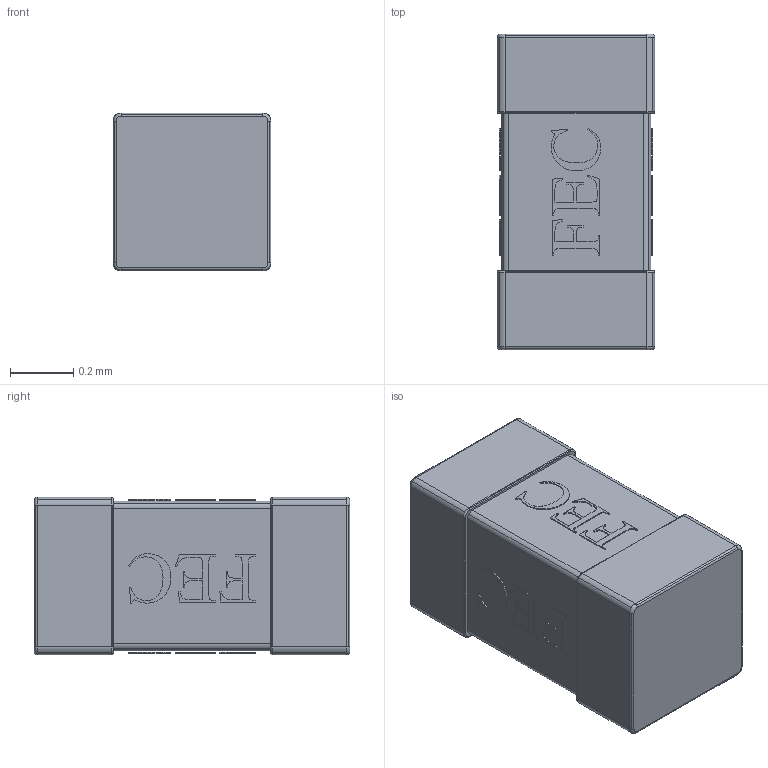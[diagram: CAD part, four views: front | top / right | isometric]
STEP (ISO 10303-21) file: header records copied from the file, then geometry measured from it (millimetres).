
FILE_DESCRIPTION(('STEP AP214'),'1');
FILE_NAME('tmp0.step','2023-08-07T00:42:23',(' '),(' '),'Spatial InterOp 3D',' ',' ');
FILE_SCHEMA(('AUTOMOTIVE_DESIGN { 1 0 10303 214 1 1 1 1 }'));
Length unit declared in the file: millimetre
Products named in the file (1): 1
Bounding box: 0.5 x 1 x 0.5 mm (x, y, z)
Volume: 0.2 mm3; surface area: 3.5 mm2
Topology: 15 solids, 15 shells, 1102 faces, 3184 edges, 2112 vertices
Faces by surface type: plane 1030, cylinder 56, torus 16
Entity records: 35714 total; most frequent: CARTESIAN_POINT 6413, ORIENTED_EDGE 6368, DIRECTION 5546, EDGE_CURVE 3184, LINE 3056, VECTOR 3056, VERTEX_POINT 2112, AXIS2_PLACEMENT_3D 1245
